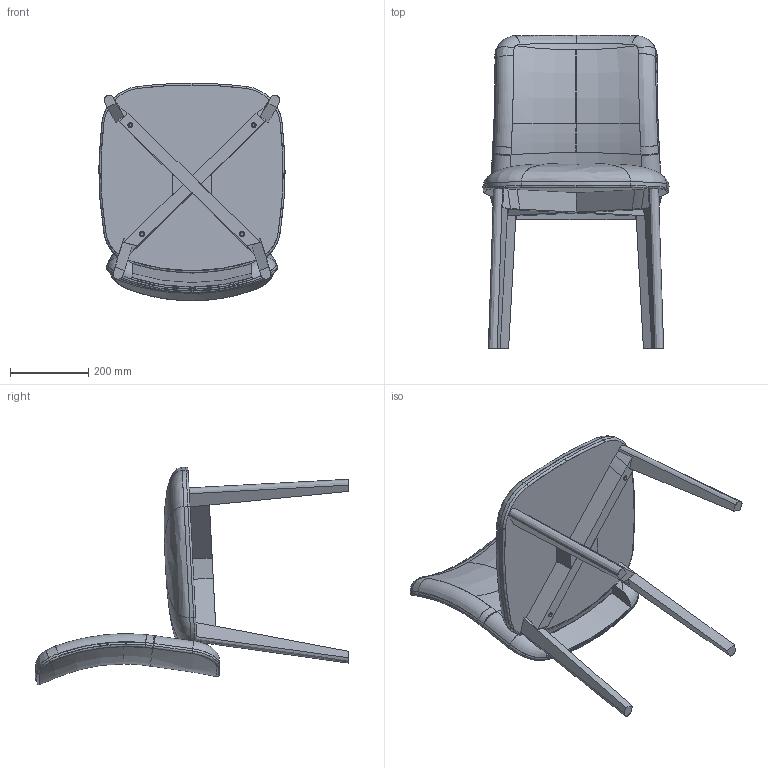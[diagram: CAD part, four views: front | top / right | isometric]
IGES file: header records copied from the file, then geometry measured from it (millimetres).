
Start section: SolidWorks IGES file using analytic representation for surfaces
Global section: file name: C:\Users\furioso\Desktop\FG53410-00-00.IGS; native system: SolidWorks 2020; preprocessor: SolidWorks 2020; author: Furioso; date: 230626.104256; units: millimetre
Bounding box: 475.32 x 799.85 x 555.75 mm (x, y, z)
Surface area: 1326887.4 mm2 (no closed solid volume)
Topology: 0 solids, 0 shells, 289 faces, 5321 edges, 5317 vertices
Faces by surface type: bspline 189, revolution 100
